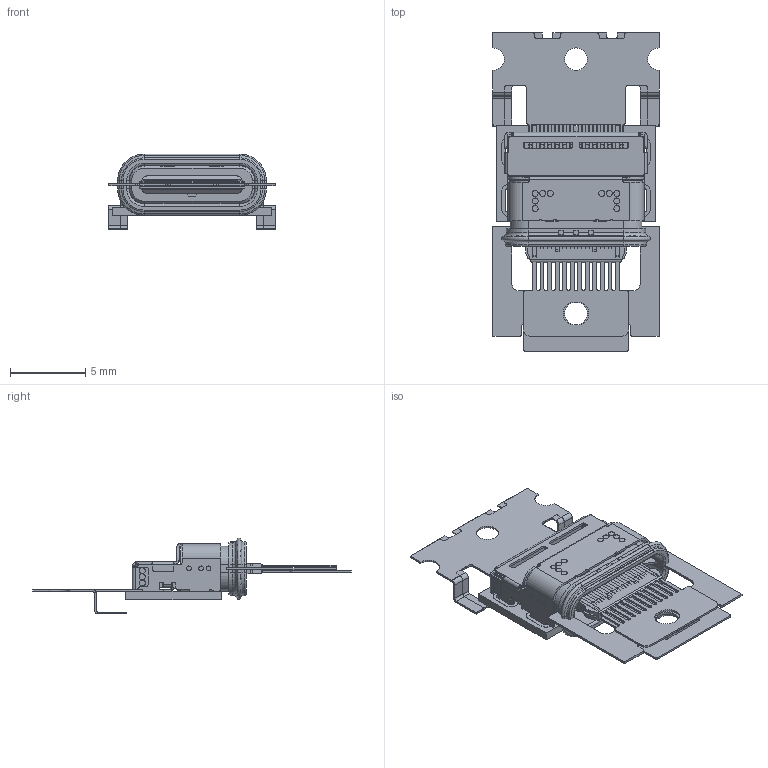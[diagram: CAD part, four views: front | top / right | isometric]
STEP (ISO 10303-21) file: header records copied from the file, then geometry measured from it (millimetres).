
FILE_DESCRIPTION((''),'2;1');
FILE_NAME('TYPE_C24P__ASM','2021-09-22T',('Administrator'),(''),'PRO/ENGINEER BY PARAMETRIC TECHNOLOGY CORPORATION, 2010180','PRO/ENGINEER BY PARAMETRIC TECHNOLOGY CORPORATION, 2010180','');
FILE_SCHEMA(('CONFIG_CONTROL_DESIGN','SHAPE_APPEARANCE_LAYERS_GROUPS'));
Products named in the file (43): PCB; _X2_80F65708_X0_; LATCH; _X2_65995E26_X0_-T_X2_4-1004050; _X2_65995E26_X0_-T_X2_4E-967590; H-_X2_4E0B_X0__1; B8; B6; B11; B2; B12; B3; B5; B4; B1; B9_2; B10; B7; T-_X2_4E0B_X0__ASM; _X2_4E0B6392_X0_MOLDING_ASM; A1; A3; A4; A12; A6; A11; A9; A8; A10; A7; A2; A5; T_X2_FF0D4E0A_X0__ASM; H-__X2_4E0A_X0_; _X2_65995E26_X0_-T_X2_4E-227420; LD-A; _X2_4E0A6392_X0_MOLDING_ASM; H-2_X2_6B21_X0_MOLDING; _X2_FF335185FF0D62C94F38_X0_; GP-LD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
Assembly tree (42 placements, depth 5):
  TYPE_C24P__ASM
    TYPE-C-24P_X2_96326C34_X0__ASM
      PCB
      _X2_80F65708_X0_
      LATCH
      _X2_4E0B6392_X0_MOLDING_ASM
        _X2_65995E26_X0_-T_X2_4-1004050
        _X2_65995E26_X0_-T_X2_4E-967590
        H-_X2_4E0B_X0__1
        T-_X2_4E0B_X0__ASM
          B8
          B6
          B11
          B2
          B12
          B3
          B5
          B4
          B1
          B9_2
          B10
          B7
      _X2_4E0A6392_X0_MOLDING_ASM
        T_X2_FF0D4E0A_X0__ASM
          A1
          A3
          A4
          A12
          A6
          A11
          A9
          A8
          A10
          A7
          A2
          A5
        H-__X2_4E0A_X0_
        _X2_65995E26_X0_-T_X2_4E-227420
        LD-A
      H-2_X2_6B21_X0_MOLDING
      _X2_FF335185FF0D62C94F38_X0_
      GP-LD
    TYPE-C_24P-SHELL
Bounding box: 11 x 21.1 x 5.03 mm (x, y, z)
Volume: 172.4 mm3; surface area: 1723.6 mm2
Topology: 38 solids, 38 shells, 3705 faces, 10181 edges, 6661 vertices
Faces by surface type: plane 2658, cylinder 904, torus 56, cone 40, bspline 26, sphere 18, extrusion 3
Entity records: 150041 total; most frequent: CARTESIAN_POINT 22119, ORIENTED_EDGE 20362, DIRECTION 19477, PRESENTATION_STYLE_ASSIGNMENT 10283, STYLED_ITEM 10219, CURVE_STYLE 10181, EDGE_CURVE 10181, VECTOR 8071
